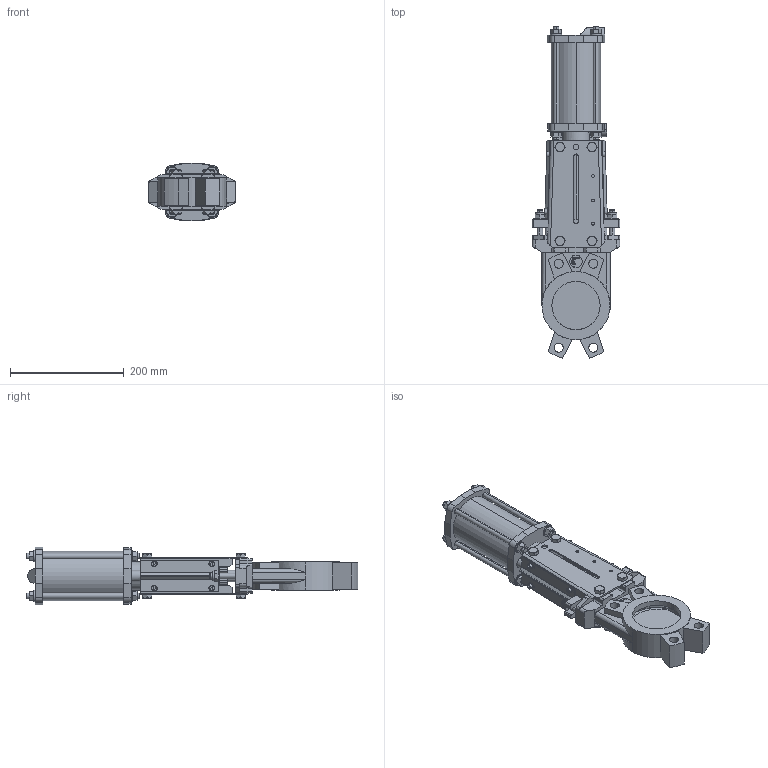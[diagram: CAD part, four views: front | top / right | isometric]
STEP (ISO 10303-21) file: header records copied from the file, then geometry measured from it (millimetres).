
FILE_DESCRIPTION (( 'STEP AP203' ), '1' );
FILE_NAME ('VG P DN80.STEP', '2010-03-13T02:47:28', ( 'farex' ), ( '' ), 'SwSTEP 2.0', 'SolidWorks 2009', '' );
FILE_SCHEMA (( 'CONFIG_CONTROL_DESIGN' ));
Length unit declared in the file: millimetre
Products named in the file (1): VG P DN80
Bounding box: 154 x 584.17 x 102 mm (x, y, z)
Volume: 1644892.4 mm3; surface area: 419757 mm2
Topology: 1 solids, 18 shells, 1043 faces, 2663 edges, 1742 vertices
Faces by surface type: plane 558, cylinder 314, cone 121, bspline 42, torus 8
Entity records: 34645 total; most frequent: CARTESIAN_POINT 9319, ORIENTED_EDGE 5326, DIRECTION 5084, EDGE_CURVE 2663, AXIS2_PLACEMENT_3D 1777, VERTEX_POINT 1742, VECTOR 1530, LINE 1530
